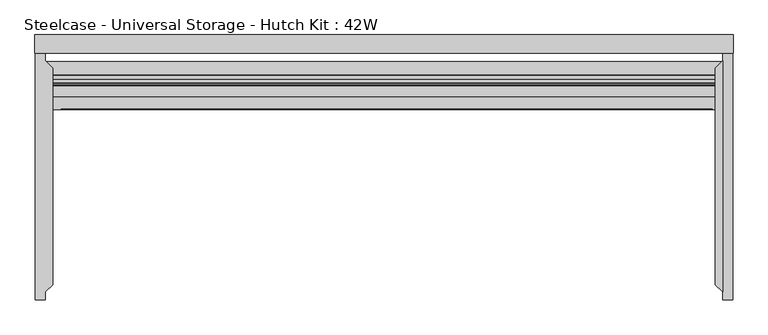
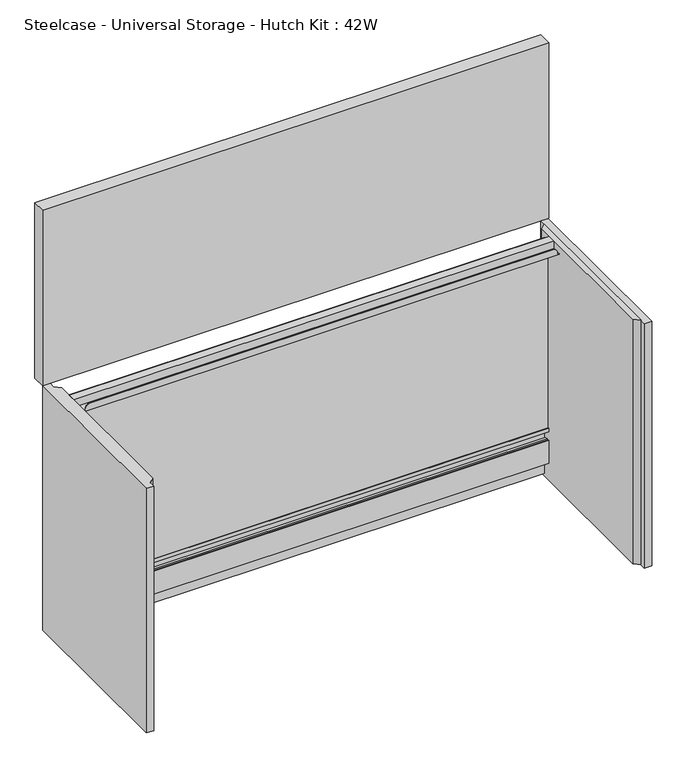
"""IFC4 building model written with IfcOpenShell, lengths in millimetres: furniture geometry, Steelcase - Universal Storage - Hutch Kit : 42W."""

from ifc_helpers import new_model, si_unit, frame, origin, place, context, project, spatial, polyline, circle_curve, outline, extrude, faceted_brep, source, transform, mapped, element, save
from ifc_brep_helpers import plane_surface, cylinder_surface, advanced_brep


def steelcase_universal_storage_hutch_kit_42w_1ce69537(model_context):
    return source(origin(), model_context, "Body", "SolidModel", [
        extrude(outline(polyline([(1050.6202, -39.6494001), (1050.6202, -393.4459972), (1039.622, -382.447795), (1039.622, -50.6476006), (1050.6202, -39.6494001)])), frame((0.0, 0.0, 723.9), z_axis=(0.0, 0.0, 1.0), x_axis=(1.0, 0.0, 0.0)), (0.0, 0.0, 1.0), 544.8554),
        extrude(outline(polyline([(1050.6202, -27.9400006), (1065.9872, -27.9400006), (1065.9872, -405.1553842), (1050.6202, -405.1553842), (1050.6202, -27.9400006)])), frame((0.0, 0.0, 723.9), z_axis=(0.0, 0.0, 1.0), x_axis=(1.0, 0.0, 0.0)), (0.0, 0.0, 1.0), 544.8554),
        extrude(outline(polyline([(16.1798, -405.1553842), (0.8128, -405.1553842), (0.8128, -27.9400006), (16.1798, -27.9400006), (16.1798, -39.6494001), (27.178, -50.6476006), (27.178, -382.447795), (16.1798, -393.4459972), (16.1798, -405.1553842)])), frame((0.0, 0.0, 723.9), z_axis=(0.0, 0.0, 1.0), x_axis=(1.0, 0.0, 0.0)), (0.0, 0.0, 1.0), 544.8554),
        advanced_brep(
        [(1039.622, -78.4097988, 1250.975386), (1039.622, -78.4097988, 1268.7554), (1039.622, -94.7420005, 1268.7554), (1039.622, -94.7420005, 1251.8898651), (1039.622, -114.2492006, 1251.8898651), (1039.622, -114.2492006, 1250.975386), (1039.622, -93.8275986, 1250.975386), (1039.622, -93.8275986, 1267.8410717), (1039.622, -79.3242007, 1267.8410717), (1039.622, -79.3242007, 1250.975386), (27.178, -78.4097988, 1250.975386), (27.178, -79.3242007, 1250.975386), (27.178, -79.3242007, 1267.8410717), (27.178, -93.8275986, 1267.8410717), (27.178, -93.8275986, 1250.975386), (27.178, -114.2492006, 1250.975386), (27.178, -114.2492006, 1251.8898651), (27.178, -94.7420005, 1251.8898651), (27.178, -94.7420005, 1268.7554), (27.178, -78.4097988, 1268.7554), (40.5892014, -114.2492006, 1251.8898651), (40.5892014, -113.3348006, 1251.8898651), (1035.0809148, -113.3348006, 1251.8898651), (1035.0809148, -114.2492006, 1251.8898651), (1035.0809148, -114.2492006, 1256.0554636), (1026.1909148, -114.2492006, 1264.9454636), (49.4792014, -114.2492006, 1264.9454636), (40.5892014, -114.2492006, 1256.0554636), (40.5892014, -113.3348006, 1256.0554636), (49.4792014, -113.3348006, 1264.9454636), (1026.1909148, -113.3348006, 1264.9454636), (1035.0809148, -113.3348006, 1256.0554636)],
        [
            (0, 1),
            (1, 2),
            (2, 3),
            (3, 4),
            (4, 5),
            (5, 6),
            (6, 7),
            (7, 8),
            (8, 9),
            (9, 0),
            (10, 11),
            (11, 12),
            (12, 13),
            (13, 14),
            (14, 15),
            (15, 16),
            (16, 17),
            (17, 18),
            (18, 19),
            (19, 10),
            (0, 10),
            (19, 1),
            (18, 2),
            (17, 3),
            (16, 20),
            (20, 21),
            (21, 22),
            (22, 23),
            (23, 4),
            (23, 24),
            (24, 25, circle_curve(frame((1026.1909148, -114.2492006, 1256.0554636), z_axis=(0.0, -1.0, 0.0), x_axis=(1.0, 0.0, 0.0)), 8.89)),
            (25, 26),
            (26, 27, circle_curve(frame((49.4792014, -114.2492006, 1256.0554636), z_axis=(0.0, -1.0, 0.0), x_axis=(1.0, 0.0, 0.0)), 8.89)),
            (27, 20),
            (15, 5),
            (14, 6),
            (13, 7),
            (12, 8),
            (11, 9),
            (28, 29, circle_curve(frame((49.4792014, -113.3348006, 1256.0554636), z_axis=(0.0, 1.0, 0.0), x_axis=(1.0, 0.0, 0.0)), 8.89)),
            (29, 30),
            (30, 31, circle_curve(frame((1026.1909148, -113.3348006, 1256.0554636), z_axis=(0.0, 1.0, 0.0), x_axis=(1.0, 0.0, 0.0)), 8.89)),
            (31, 22),
            (21, 28),
            (27, 28),
            (31, 24),
            (30, 25),
            (29, 26),
        ],
        [
            plane_surface(frame((1039.622, -78.4097988, 1268.7554), z_axis=(1.0, 0.0, 0.0), x_axis=(0.0, 0.0, 1.0))),
            plane_surface(frame((27.178, -78.4097988, 1268.7554), z_axis=(-1.0, 0.0, 0.0), x_axis=(0.0, 0.0, -1.0))),
            plane_surface(frame((1039.622, -78.4097988, 1250.975386), z_axis=(0.0, 1.0, 0.0), x_axis=(-1.0, 0.0, 0.0))),
            plane_surface(frame((1039.622, -78.4097988, 1268.7554), z_axis=(0.0, 0.0, 1.0), x_axis=(-1.0, 0.0, 0.0))),
            plane_surface(frame((1039.622, -94.7420005, 1268.7554), z_axis=(0.0, -1.0, 0.0), x_axis=(-1.0, 0.0, 0.0))),
            plane_surface(frame((1039.622, -94.7420005, 1251.8898651), z_axis=(0.0, 0.0, 1.0), x_axis=(-1.0, 0.0, 0.0))),
            plane_surface(frame((1039.622, -114.2492006, 1251.8898651), z_axis=(0.0, -1.0, 0.0), x_axis=(-1.0, 0.0, 0.0))),
            plane_surface(frame((1039.622, -114.2492006, 1250.975386), z_axis=(0.0, 0.0, -1.0), x_axis=(-1.0, 0.0, 0.0))),
            plane_surface(frame((1039.622, -93.8275986, 1250.975386), z_axis=(0.0, 1.0, 0.0), x_axis=(-1.0, 0.0, 0.0))),
            plane_surface(frame((1039.622, -93.8275986, 1267.8410717), z_axis=(0.0, 0.0, -1.0), x_axis=(-1.0, 0.0, 0.0))),
            plane_surface(frame((1039.622, -79.3242007, 1267.8410717), z_axis=(0.0, -1.0, 0.0), x_axis=(-1.0, 0.0, 0.0))),
            plane_surface(frame((1039.622, -79.3242007, 1250.975386), z_axis=(0.0, 0.0, -1.0), x_axis=(-1.0, 0.0, 0.0))),
            plane_surface(frame((40.5892014, -113.3348006, 1251.8898651), z_axis=(0.0, 1.0, 0.0), x_axis=(0.0, 0.0, 1.0))),
            plane_surface(frame((40.5892014, -114.2492006, 1256.0554636), z_axis=(-1.0, 0.0, 0.0), x_axis=(0.0, 1.0, 0.0))),
            plane_surface(frame((1035.0809148, -114.2492006, 1251.8898651), z_axis=(1.0, 0.0, 0.0), x_axis=(0.0, 1.0, 0.0))),
            cylinder_surface(frame((1026.1909148, -113.3348006, 1256.0554636), z_axis=(0.0, -1.0, 0.0), x_axis=(1.0, 0.0, 0.0)), 8.89),
            plane_surface(frame((1026.1909148, -114.2492006, 1264.9454636), z_axis=(0.0, 0.0, 1.0), x_axis=(0.0, 1.0, 0.0))),
            cylinder_surface(frame((49.4792014, -113.3348006, 1256.0554636), z_axis=(0.0, -1.0, 0.0), x_axis=(1.0, 0.0, 0.0)), 8.89),
        ],
        [
            (0, [[1, 2, 3, 4, 5, 6, 7, 8, 9, 10]]),
            (1, [[11, 12, 13, 14, 15, 16, 17, 18, 19, 20]]),
            (2, [[-1, 21, -20, 22]]),
            (3, [[-2, -22, -19, 23]]),
            (4, [[-3, -23, -18, 24]]),
            (5, [[-4, -24, -17, 25, 26, 27, 28, 29]]),
            (6, [[-5, -29, 30, 31, 32, 33, 34, -25, -16, 35]]),
            (7, [[-6, -35, -15, 36]]),
            (8, [[-7, -36, -14, 37]]),
            (9, [[-8, -37, -13, 38]]),
            (10, [[-9, -38, -12, 39]]),
            (11, [[-10, -39, -11, -21]]),
            (12, [[40, 41, 42, 43, -27, 44]]),
            (13, [[-34, 45, -44, -26]]),
            (14, [[-30, -28, -43, 46]]),
            (15, [[-31, -46, -42, 47]]),
            (16, [[-32, -47, -41, 48]]),
            (17, [[-33, -48, -40, -45]]),
        ],
    ),
        faceted_brep([(1039.622, -60.7822002, 848.0044), (1039.622, -60.7822002, 833.8820223), (1039.622, -74.2695991, 833.8820223), (1039.622, -74.2695991, 839.215999), (1039.622, -75.7936022, 839.215999), (1039.622, -75.7936022, 831.8500242), (1039.622, -60.7652681, 831.8500242), (1039.622, -60.7652681, 808.7613899), (1039.622, -64.6684001, 808.7613899), (1039.622, -64.6684001, 812.8000242), (1039.622, -70.7136025, 812.8000242), (1039.622, -70.7136025, 806.4499758), (1039.622, -74.2695991, 806.4499758), (1039.622, -74.2695991, 812.8000242), (1039.622, -75.7936022, 812.8000242), (1039.622, -75.7936022, 762.0), (1039.622, -60.7652681, 762.0), (1039.622, -60.7652681, 730.377), (1039.622, -50.6476006, 730.377), (1039.622, -50.6476006, 848.0044), (27.178, -60.7822002, 848.0044), (27.178, -50.6476006, 848.0044), (27.178, -50.6476006, 730.377), (27.178, -60.7652681, 730.377), (27.178, -60.7652681, 762.0), (27.178, -75.7936022, 762.0), (27.178, -75.7936022, 812.8000242), (27.178, -74.2695991, 812.8000242), (27.178, -74.2695991, 806.4499758), (27.178, -70.7136025, 806.4499758), (27.178, -70.7136025, 812.8000242), (27.178, -64.6684001, 812.8000242), (27.178, -64.6684001, 808.7613899), (27.178, -60.7652681, 808.7613899), (27.178, -60.7652681, 831.8500242), (27.178, -75.7936022, 831.8500242), (27.178, -75.7936022, 839.215999), (27.178, -74.2695991, 839.215999), (27.178, -74.2695991, 833.8820223), (27.178, -60.7822002, 833.8820223), (16.1798, -50.6476006, 730.377), (16.1798, -41.1480006, 730.377), (1050.6202, -41.1480006, 730.377), (1050.6202, -50.6476006, 730.377), (1050.6202, -50.6476006, 848.0044), (1050.6202, -41.1480006, 848.0044), (16.1798, -41.1480006, 848.0044), (16.1798, -50.6476006, 848.0044)], [[[0, 1, 2, 3, 4, 5, 6, 7, 8, 9, 10, 11, 12, 13, 14, 15, 16, 17, 18, 19]], [[20, 21, 22, 23, 24, 25, 26, 27, 28, 29, 30, 31, 32, 33, 34, 35, 36, 37, 38, 39]], [[1, 0, 20, 39]], [[2, 1, 39, 38]], [[3, 2, 38, 37]], [[4, 3, 37, 36]], [[5, 4, 36, 35]], [[6, 5, 35, 34]], [[7, 6, 34, 33]], [[8, 7, 33, 32]], [[9, 8, 32, 31]], [[10, 9, 31, 30]], [[11, 10, 30, 29]], [[12, 11, 29, 28]], [[13, 12, 28, 27]], [[14, 13, 27, 26]], [[15, 14, 26, 25]], [[16, 15, 25, 24]], [[17, 16, 24, 23]], [[18, 17, 23, 22, 40, 41, 42, 43]], [[0, 19, 44, 45, 46, 47, 21, 20]], [[44, 43, 42, 45]], [[47, 46, 41, 40]], [[43, 44, 19, 18]], [[47, 40, 22, 21]], [[45, 42, 41, 46]]]),
        extrude(outline(polyline([(1039.622, -61.9759999), (1039.622, -67.5258996), (27.178, -67.5258996), (27.178, -61.9759999), (1039.622, -61.9759999)])), frame((0.0, 0.0, 833.8820223), z_axis=(0.0, 0.0, 1.0), x_axis=(1.0, 0.0, 0.0)), (0.0, 0.0, 1.0), 423.4941359),
        extrude(outline(polyline([(1039.622, -67.5258996), (1039.622, -73.0618558), (27.178, -73.0618558), (27.178, -67.5258996), (1039.622, -67.5258996)])), frame((0.0, 0.0, 833.8820223), z_axis=(0.0, 0.0, 1.0), x_axis=(1.0, 0.0, 0.0)), (0.0, 0.0, 1.0), 423.4941359),
        extrude(outline(polyline([(1066.8, 0.0), (1066.8, -27.9400006), (0.0, -27.9400006), (0.0, 0.0), (1066.8, 0.0)])), frame((0.0, 0.0, 1268.7554), z_axis=(0.0, 0.0, 1.0), x_axis=(1.0, 0.0, 0.0)), (0.0, 0.0, 1.0), 391.9220132),
    ])


if __name__ == "__main__":
    model = new_model("IFC4")
    model_context = context("Model", 3, world=origin())
    ifc_project = project(units=[si_unit("LENGTHUNIT", "METRE", prefix="MILLI")], contexts=[model_context])
    site = spatial("IfcSite", under=ifc_project)
    building = spatial("IfcBuilding", under=site)
    placement = place(None, origin())
    steelcase_universal_storage_hutch_kit_42w_shape = steelcase_universal_storage_hutch_kit_42w_1ce69537(model_context)
    element("IfcFurniture", 1, ObjectType="Steelcase - Universal Storage - Hutch Kit : 42W", at=placement, inside=building, context=model_context, shape_type="MappedRepresentation", body=[
        mapped(steelcase_universal_storage_hutch_kit_42w_shape, transform((0.0, 0.0, 0.0), x_axis=(1.0, 0.0, 0.0), y_axis=(0.0, 1.0, 0.0), z_axis=(0.0, 0.0, 1.0))),
    ])
    save(model, "model.ifc")
